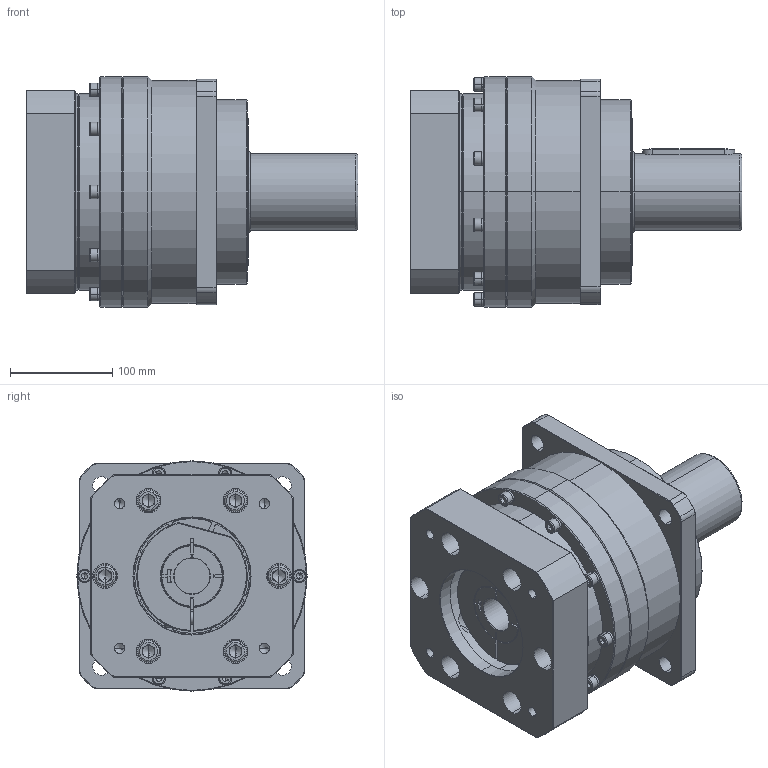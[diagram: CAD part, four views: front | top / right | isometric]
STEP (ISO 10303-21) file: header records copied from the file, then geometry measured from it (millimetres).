
FILE_DESCRIPTION (( 'STEP AP214' ), '1' );
FILE_NAME ('VRB-220-L1-S2-P1 35键10-114.3-200-M12.STEP', '2023-08-19T07:49:41', ( '微软用户' ), ( '微软中国' ), 'SwSTEP 2.0', 'SolidWorks 2018', '' );
FILE_SCHEMA (( 'AUTOMOTIVE_DESIGN' ));
Length unit declared in the file: millimetre
Products named in the file (1): VRB-220-L1-S2-P1 35瑩10-114.3-200-M12
Bounding box: 324 x 225 x 225 mm (x, y, z)
Volume: 7686976.1 mm3; surface area: 434028.4 mm2
Topology: 1 solids, 3 shells, 1112 faces, 2872 edges, 1797 vertices
Faces by surface type: plane 464, cylinder 436, cone 166, bspline 46
Entity records: 34655 total; most frequent: CARTESIAN_POINT 7243, DIRECTION 6033, ORIENTED_EDGE 5628, EDGE_CURVE 2814, AXIS2_PLACEMENT_3D 2341, VERTEX_POINT 1797, VECTOR 1351, LINE 1351
